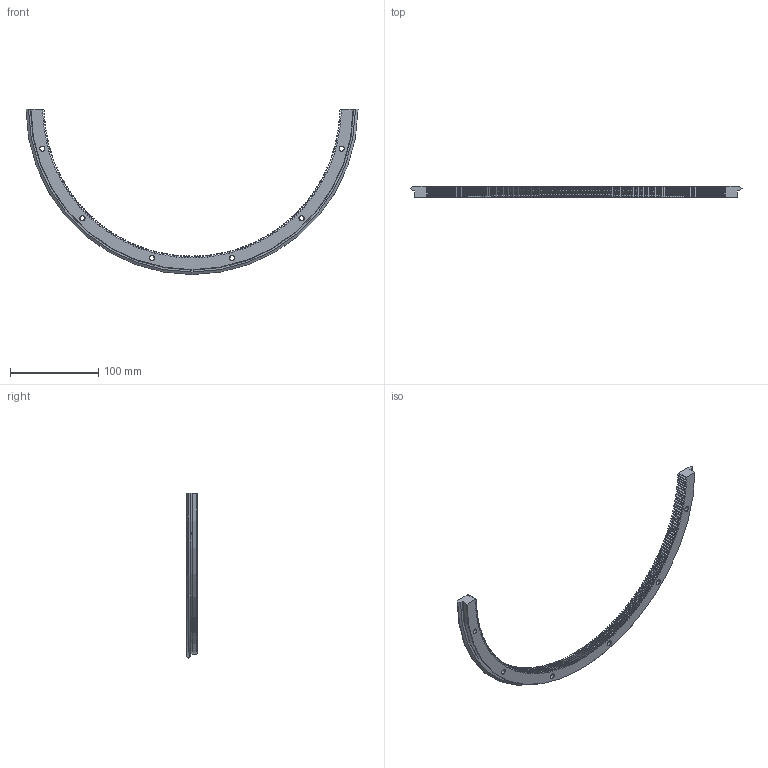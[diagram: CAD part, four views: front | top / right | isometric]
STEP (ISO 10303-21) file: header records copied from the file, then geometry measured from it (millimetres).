
FILE_DESCRIPTION( ( 'STEP AP203' ), '1' );
FILE_NAME( 'p:/temp/worker_33/temp/exporttempdir_4596_910_j5i8P/format_0/RES 376 R180 Q.stp', '2021-08-30T05:08:55', ( 'License CC BY-ND 4.0' ), ( 'CADENAS' ), ' ', 'PARTsolutions', ' ' );
FILE_SCHEMA( ( 'CONFIG_CONTROL_DESIGN' ) );
Length unit declared in the file: millimetre
Products named in the file (1): _RES 376 R180 Q
Bounding box: 375.99 x 12.25 x 187 mm (x, y, z)
Volume: 107049.6 mm3; surface area: 42254.1 mm2
Topology: 1 solids, 1 shells, 874 faces, 2592 edges, 1726 vertices
Faces by surface type: cylinder 349, plane 348, cone 176, torus 1
Full cylindrical faces by diameter (mm): 5.5 x6, 10 x6
Entity records: 29820 total; most frequent: CARTESIAN_POINT 6214, ORIENTED_EDGE 5148, DIRECTION 4858, EDGE_CURVE 2574, AXIS2_PLACEMENT_3D 1751, VERTEX_POINT 1727, LINE 1356, VECTOR 1356
